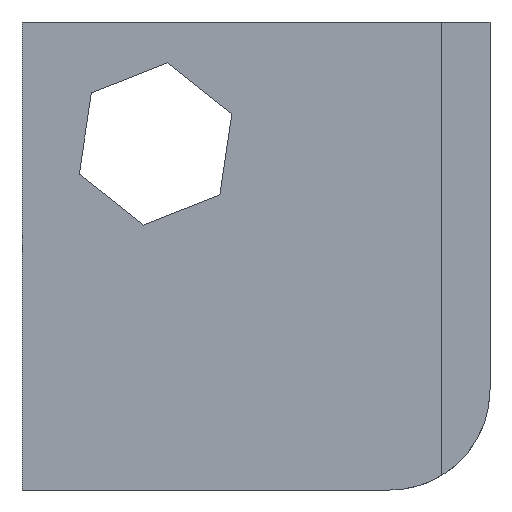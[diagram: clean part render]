
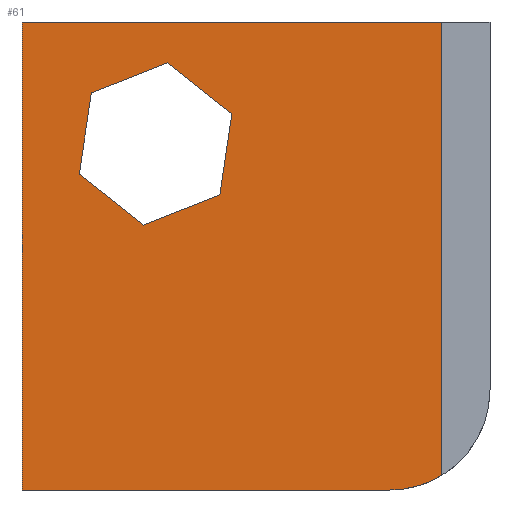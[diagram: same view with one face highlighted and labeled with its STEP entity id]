
A CAD part, left-side view. The second image highlights one B-rep face of the part: STEP entity #61.
In plain terms, the highlighted planar face has unit normal (-1, 0, 0).
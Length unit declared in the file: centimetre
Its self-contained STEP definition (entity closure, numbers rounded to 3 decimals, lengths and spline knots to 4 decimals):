
#13 = EDGE_CURVE ( 'NONE', #97, #138, #441, .T. ) ;
#14 = EDGE_CURVE ( 'NONE', #90, #479, #17, .T. ) ;
#17 = LINE ( 'NONE', #449, #569 ) ;
#19 = LINE ( 'NONE', #166, #549 ) ;
#23 = DIRECTION ( 'NONE',  ( 0., 0., 1. ) ) ;
#36 = VERTEX_POINT ( 'NONE', #320 ) ;
#40 = VECTOR ( 'NONE', #318, 100. ) ;
#46 = ORIENTED_EDGE ( 'NONE', *, *, #342, .F. ) ;
#47 = CARTESIAN_POINT ( 'NONE',  ( 0., 1000., 1000. ) ) ;
#48 = ORIENTED_EDGE ( 'NONE', *, *, #13, .F. ) ;
#49 = DIRECTION ( 'NONE',  ( 0., -1., 0. ) ) ;
#56 = CARTESIAN_POINT ( 'NONE',  ( 0., 551.5069, 803.9199 ) ) ;
#61 = ADVANCED_FACE ( 'NONE', ( #414, #547 ), #494, .F. ) ;
#66 = LINE ( 'NONE', #322, #554 ) ;
#90 = VERTEX_POINT ( 'NONE', #399 ) ;
#93 = VECTOR ( 'NONE', #49, 100. ) ;
#97 = VERTEX_POINT ( 'NONE', #557 ) ;
#106 = DIRECTION ( 'NONE',  ( 0., 0., -1. ) ) ;
#107 = LINE ( 'NONE', #356, #40 ) ;
#108 = CARTESIAN_POINT ( 'NONE',  ( 0., 1000., 1000. ) ) ;
#110 = VERTEX_POINT ( 'NONE', #544 ) ;
#112 = LINE ( 'NONE', #267, #331 ) ;
#119 = CARTESIAN_POINT ( 'NONE',  ( 0., 740.2452, 566.1056 ) ) ;
#122 = LINE ( 'NONE', #119, #592 ) ;
#128 = EDGE_LOOP ( 'NONE', ( #178, #394, #590, #46, #253, #334 ) ) ;
#129 = VERTEX_POINT ( 'NONE', #471 ) ;
#138 = VERTEX_POINT ( 'NONE', #417 ) ;
#139 = ORIENTED_EDGE ( 'NONE', *, *, #391, .T. ) ;
#150 = DIRECTION ( 'NONE',  ( 0., 0.147, -0.989 ) ) ;
#166 = CARTESIAN_POINT ( 'NONE',  ( 0., 577.225, 630.5287 ) ) ;
#178 = ORIENTED_EDGE ( 'NONE', *, *, #14, .F. ) ;
#197 = DIRECTION ( 'NONE',  ( 0., 0., -1. ) ) ;
#215 = EDGE_CURVE ( 'NONE', #110, #129, #122, .T. ) ;
#218 = DIRECTION ( 'NONE',  ( 0., -1., 0. ) ) ;
#229 = EDGE_CURVE ( 'NONE', #393, #90, #466, .T. ) ;
#239 = VERTEX_POINT ( 'NONE', #515 ) ;
#251 = EDGE_CURVE ( 'NONE', #299, #396, #497, .T. ) ;
#253 = ORIENTED_EDGE ( 'NONE', *, *, #215, .F. ) ;
#267 = CARTESIAN_POINT ( 'NONE',  ( 0., 1000., 0. ) ) ;
#299 = VERTEX_POINT ( 'NONE', #615 ) ;
#313 = AXIS2_PLACEMENT_3D ( 'NONE', #328, #462, #522 ) ;
#318 = DIRECTION ( 'NONE',  ( 0., -0.783, -0.622 ) ) ;
#320 = CARTESIAN_POINT ( 'NONE',  ( 0., 551.5069, 803.9199 ) ) ;
#321 = DIRECTION ( 'NONE',  ( 0., -0.147, 0.989 ) ) ;
#322 = CARTESIAN_POINT ( 'NONE',  ( 0., 102.8252, 0. ) ) ;
#328 = CARTESIAN_POINT ( 'NONE',  ( 0., 214.1129, 214.1129 ) ) ;
#329 = DIRECTION ( 'NONE',  ( 0., -0.93, 0.368 ) ) ;
#331 = VECTOR ( 'NONE', #218, 100. ) ;
#334 = ORIENTED_EDGE ( 'NONE', *, *, #513, .F. ) ;
#342 = EDGE_CURVE ( 'NONE', #129, #36, #19, .T. ) ;
#352 = LINE ( 'NONE', #56, #465 ) ;
#356 = CARTESIAN_POINT ( 'NONE',  ( 0., 877.5474, 675.0737 ) ) ;
#358 = EDGE_CURVE ( 'NONE', #36, #393, #352, .T. ) ;
#391 = EDGE_CURVE ( 'NONE', #97, #239, #500, .T. ) ;
#393 = VERTEX_POINT ( 'NONE', #599 ) ;
#394 = ORIENTED_EDGE ( 'NONE', *, *, #229, .F. ) ;
#396 = VERTEX_POINT ( 'NONE', #407 ) ;
#397 = ORIENTED_EDGE ( 'NONE', *, *, #637, .T. ) ;
#399 = CARTESIAN_POINT ( 'NONE',  ( 0., 851.8293, 848.4649 ) ) ;
#402 = CARTESIAN_POINT ( 'NONE',  ( 0., 1000., 1000. ) ) ;
#407 = CARTESIAN_POINT ( 'NONE',  ( 0., 102.8252, 31.1938 ) ) ;
#414 = FACE_BOUND ( 'NONE', #128, .T. ) ;
#417 = CARTESIAN_POINT ( 'NONE',  ( 0., 102.8252, 1000. ) ) ;
#418 = CARTESIAN_POINT ( 'NONE',  ( 0., 688.8091, 912.888 ) ) ;
#441 = LINE ( 'NONE', #47, #93 ) ;
#449 = CARTESIAN_POINT ( 'NONE',  ( 0., 851.8293, 848.4649 ) ) ;
#456 = CARTESIAN_POINT ( 'NONE',  ( 0., 877.5474, 675.0737 ) ) ;
#462 = DIRECTION ( 'NONE',  ( -1., 0., 0. ) ) ;
#465 = VECTOR ( 'NONE', #602, 100. ) ;
#466 = LINE ( 'NONE', #418, #518 ) ;
#471 = CARTESIAN_POINT ( 'NONE',  ( 0., 577.225, 630.5287 ) ) ;
#479 = VERTEX_POINT ( 'NONE', #456 ) ;
#492 = DIRECTION ( 'NONE',  ( 1., 0., 0. ) ) ;
#494 = PLANE ( 'NONE',  #558 ) ;
#497 = CIRCLE ( 'NONE', #313, 214.1129 ) ;
#500 = LINE ( 'NONE', #108, #631 ) ;
#513 = EDGE_CURVE ( 'NONE', #479, #110, #107, .T. ) ;
#515 = CARTESIAN_POINT ( 'NONE',  ( 0., 1000., 0. ) ) ;
#518 = VECTOR ( 'NONE', #618, 100. ) ;
#522 = DIRECTION ( 'NONE',  ( 0., 0., -1. ) ) ;
#530 = ORIENTED_EDGE ( 'NONE', *, *, #571, .T. ) ;
#544 = CARTESIAN_POINT ( 'NONE',  ( 0., 740.2452, 566.1056 ) ) ;
#547 = FACE_OUTER_BOUND ( 'NONE', #636, .T. ) ;
#549 = VECTOR ( 'NONE', #321, 100. ) ;
#554 = VECTOR ( 'NONE', #23, 100. ) ;
#557 = CARTESIAN_POINT ( 'NONE',  ( 0., 1000., 1000. ) ) ;
#558 = AXIS2_PLACEMENT_3D ( 'NONE', #402, #492, #197 ) ;
#569 = VECTOR ( 'NONE', #150, 100. ) ;
#571 = EDGE_CURVE ( 'NONE', #239, #299, #112, .T. ) ;
#581 = ORIENTED_EDGE ( 'NONE', *, *, #251, .T. ) ;
#590 = ORIENTED_EDGE ( 'NONE', *, *, #358, .F. ) ;
#592 = VECTOR ( 'NONE', #329, 100. ) ;
#599 = CARTESIAN_POINT ( 'NONE',  ( 0., 688.8091, 912.888 ) ) ;
#602 = DIRECTION ( 'NONE',  ( 0., 0.783, 0.622 ) ) ;
#615 = CARTESIAN_POINT ( 'NONE',  ( 0., 214.1129, 0. ) ) ;
#618 = DIRECTION ( 'NONE',  ( 0., 0.93, -0.368 ) ) ;
#631 = VECTOR ( 'NONE', #106, 100. ) ;
#636 = EDGE_LOOP ( 'NONE', ( #581, #397, #48, #139, #530 ) ) ;
#637 = EDGE_CURVE ( 'NONE', #396, #138, #66, .T. ) ;
